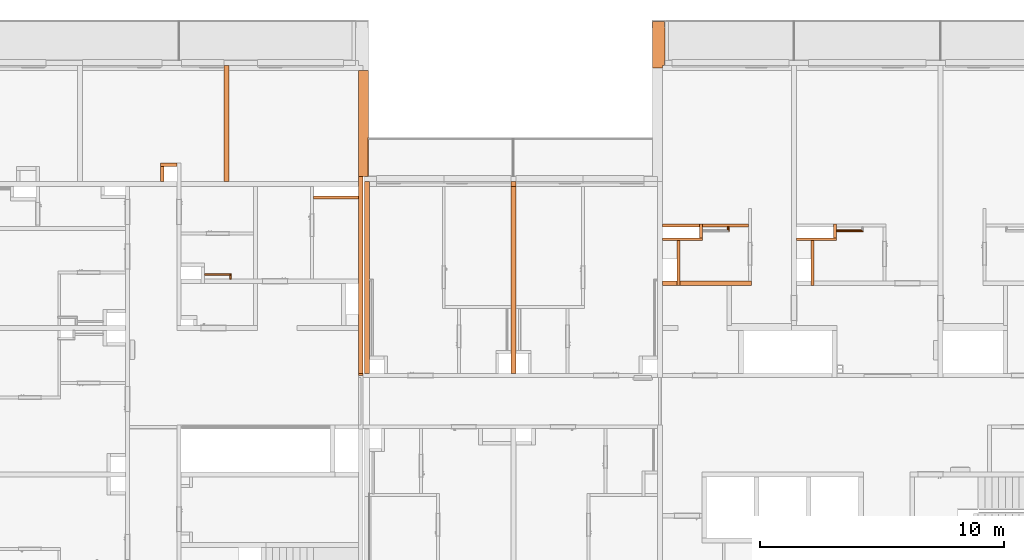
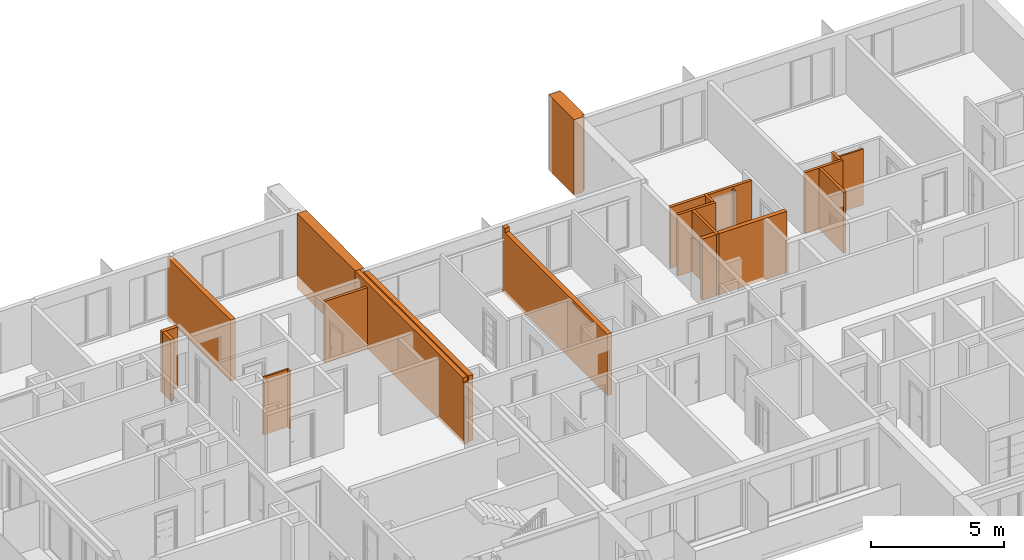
# One storey, part 62 of 67: 21 proxies, 1 opening.
"""IFC2X3 building model written with IfcOpenShell, lengths in millimetres."""

import ifcopenshell
import ifcopenshell.guid

model = None  # the IFC model being written
_history = None  # IfcOwnerHistory: only IFC2X3 demands one
_inside = {}  # id of a spatial element -> (the spatial element, [elements in it])
_under = {}  # id of a project, library or spatial element -> (it, [spatial elements below it])
_declared = {}  # id of a project -> (the project, [libraries it declares])
_typed = {}  # id of a type object -> (the type object, [elements of that type])
_made_of = {}  # id of a material, layer set ... -> (it, [elements and type objects made of it])


def new_model(schema):
    """Start an empty IFC model of exactly this schema.

    Asked for "IFC4X3", IfcOpenShell would pick the latest addendum, in which some entities
    have other attributes; the version numbers below select the first issue.
    IFC2X3 requires an IfcOwnerHistory on every rooted entity: one is made here for all.
    """
    global model, _history
    if schema == "IFC4X3":
        model = ifcopenshell.file(schema_version=(4, 3, 0, 0))
    else:
        model = ifcopenshell.file(schema=schema)
    _inside.clear()
    _under.clear()
    _declared.clear()
    _typed.clear()
    _made_of.clear()
    _history = None
    if model.schema == "IFC2X3":
        org = make("IfcOrganization", Name="unknown")
        user = make(
            "IfcPersonAndOrganization",
            ThePerson=make("IfcPerson", FamilyName="unknown"),
            TheOrganization=org,
        )
        app = make(
            "IfcApplication",
            ApplicationDeveloper=org,
            Version="unknown",
            ApplicationFullName="unknown",
            ApplicationIdentifier="unknown",
        )
        _history = make(
            "IfcOwnerHistory",
            OwningUser=user,
            OwningApplication=app,
            ChangeAction="ADDED",
            CreationDate=0,
        )
    return model


def make(cls, **values):
    """One entity of the class cls with the attributes given. An attribute that is None is left unset."""
    return model.create_entity(
        cls, **{name: value for name, value in values.items() if value is not None}
    )


def entity(cls, *values):
    """Any entity or typed value of the class cls, its attributes in the order of the schema. None: left unset."""
    e = model.create_entity(cls)
    for i, value in enumerate(values):
        if value is not None:
            e[i] = value
    return e


def rooted(cls, **values):
    """An entity with a GlobalId (a new one), such as an element, a storey or a relation."""
    return make(cls, GlobalId=ifcopenshell.guid.new(), OwnerHistory=_history, **values)


def si_unit(unit_type, name, prefix=None):
    """IfcSIUnit, for example si_unit("LENGTHUNIT", "METRE", prefix="MILLI")."""
    return make("IfcSIUnit", UnitType=unit_type, Prefix=prefix, Name=name)


def converted_unit(unit_type, name, factor, base, dimensions=None, offset=None):
    """IfcConversionBasedUnit, such as the inch: factor (a typed value) times the base unit."""
    return make(
        "IfcConversionBasedUnit"
        if offset is None
        else "IfcConversionBasedUnitWithOffset",
        ConversionOffset=offset,
        Dimensions=None
        if dimensions is None
        else entity("IfcDimensionalExponents", *dimensions),
        UnitType=unit_type,
        Name=name,
        ConversionFactor=make(
            "IfcMeasureWithUnit", ValueComponent=factor, UnitComponent=base
        ),
    )


def derived_unit(unit_type, elements):
    """IfcDerivedUnit: a product of units, each with its exponent."""
    return make(
        "IfcDerivedUnit",
        Elements=[
            make("IfcDerivedUnitElement", Unit=unit, Exponent=power)
            for unit, power in elements
        ],
        UnitType=unit_type,
    )


def money_unit(currency):
    """IfcMonetaryUnit."""
    return make("IfcMonetaryUnit", Currency=currency)


def assignment(units):
    """IfcUnitAssignment: the units of a project."""
    return None if units is None else make("IfcUnitAssignment", Units=units)


def point(xyz):
    """IfcCartesianPoint."""
    return None if xyz is None else make("IfcCartesianPoint", Coordinates=xyz)


def direction(xyz):
    """IfcDirection."""
    return None if xyz is None else make("IfcDirection", DirectionRatios=xyz)


def frame(location, z_axis=None, x_axis=None):
    """IfcAxis2Placement3D, a coordinate frame: its origin and axes. An axis left out is left unset."""
    return make(
        "IfcAxis2Placement3D",
        Location=point(location),
        Axis=direction(z_axis),
        RefDirection=direction(x_axis),
    )


def frame_2d(location, x_axis=None):
    """IfcAxis2Placement2D, a coordinate frame in the plane: its origin and x axis."""
    return make(
        "IfcAxis2Placement2D", Location=point(location), RefDirection=direction(x_axis)
    )


def origin_with_axes():
    """The frame at (0, 0, 0) with the z axis (0, 0, 1) and the x axis (1, 0, 0) written out."""
    return frame((0.0, 0.0, 0.0), z_axis=(0.0, 0.0, 1.0), x_axis=(1.0, 0.0, 0.0))


def origin_2d_with_axis():
    """The frame at (0, 0) in the plane with the x axis (1, 0) written out."""
    return frame_2d((0.0, 0.0), x_axis=(1.0, 0.0))


def place(relative_to, where):
    """IfcLocalPlacement: puts the frame where relative to a parent placement (None: the world)."""
    return make(
        "IfcLocalPlacement", PlacementRelTo=relative_to, RelativePlacement=where
    )


def context(
    kind, dimensions, precision=None, world=None, true_north=None, identifier=None
):
    """IfcGeometricRepresentationContext, for example the 3D "Model" context."""
    return make(
        "IfcGeometricRepresentationContext",
        ContextIdentifier=identifier,
        ContextType=kind,
        CoordinateSpaceDimension=dimensions,
        Precision=precision,
        WorldCoordinateSystem=world,
        TrueNorth=true_north,
    )


def subcontext(parent, identifier, kind, view, scale=None):
    """IfcGeometricRepresentationSubContext, for example "Body" below "Model"."""
    return make(
        "IfcGeometricRepresentationSubContext",
        ContextIdentifier=identifier,
        ContextType=kind,
        ParentContext=parent,
        TargetScale=scale,
        TargetView=view,
    )


def project(units=None, contexts=None):
    """IfcProject with its units and contexts."""
    return rooted(
        "IfcProject",
        Name="project",
        RepresentationContexts=contexts,
        UnitsInContext=assignment(units),
    )


def spatial(cls, under=None, at=None, **own):
    """A site, building, storey or space (cls), placed at a placement, below another one or the project."""
    s = rooted(cls, ObjectPlacement=at, **own)
    if under is not None:
        _under.setdefault(under.id(), (under, []))[1].append(s)
    return s


def profile(cls, at=None, kind="AREA", **sizes):
    """A parametric profile (cls). Its sizes go by their IFC names, for example OverallWidth=200.0."""
    return make(cls, ProfileType=kind, Position=at, **sizes)


def rectangle(**sizes):
    """IfcRectangleProfileDef."""
    return profile("IfcRectangleProfileDef", **sizes)


def extrude(swept, where, along, depth):
    """IfcExtrudedAreaSolid: the profile swept, set in the frame where, extruded along a direction by depth."""
    return make(
        "IfcExtrudedAreaSolid",
        SweptArea=swept,
        Position=where,
        ExtrudedDirection=direction(along),
        Depth=depth,
    )


def faces_of(points, faces, orient=None, outer=None):
    """IfcFace entities. A face is a list of loops; a loop is a list of indices into points, from 0.

    orient and outer hold one flag for each loop. By default every Orientation is true, the
    first loop of a face is its IfcFaceOuterBound and the others are IfcFaceBound.
    """
    made = []
    for i, loops in enumerate(faces):
        bounds = []
        for j, loop in enumerate(loops):
            is_outer = j == 0 if outer is None else outer[i][j]
            bounds.append(
                make(
                    "IfcFaceOuterBound" if is_outer else "IfcFaceBound",
                    Bound=make("IfcPolyLoop", Polygon=[points[k] for k in loop]),
                    Orientation=True if orient is None else orient[i][j],
                )
            )
        made.append(make("IfcFace", Bounds=bounds))
    return made


def faceted_brep(points, faces, orient=None, outer=None, voids=None):
    """IfcFacetedBrep: a solid bounded by flat faces; with voids (closed shells), ...WithVoids."""
    shared = [point(p) for p in points]
    hull = make("IfcClosedShell", CfsFaces=faces_of(shared, faces, orient, outer))
    if voids is None:
        return make("IfcFacetedBrep", Outer=hull)
    return make(
        "IfcFacetedBrepWithVoids",
        Outer=hull,
        Voids=[
            make(cls, CfsFaces=faces_of(shared, fs, o, b)) for cls, fs, o, b in voids
        ],
    )


def shape(context_of_items, identifier, shape_type, items):
    """IfcShapeRepresentation: the items that make up one representation, for example the "Body"."""
    return make(
        "IfcShapeRepresentation",
        ContextOfItems=context_of_items,
        RepresentationIdentifier=identifier,
        RepresentationType=shape_type,
        Items=items,
    )


def material(Name=None, Category=None):
    """IfcMaterial."""
    return make("IfcMaterial", Name=Name, Category=Category)


def material_list(materials):
    """IfcMaterialList."""
    return make("IfcMaterialList", Materials=materials)


def made_of(thing, what):
    """Note that an element or type object is made of a material, layer set ...; save() writes the relation."""
    if what is not None:
        _made_of.setdefault(what.id(), (what, []))[1].append(thing)
    return thing


def type_object(cls, material=None, **own):
    """A type object (cls), such as IfcWallType, which elements share."""
    return made_of(rooted(cls, **own), material)


def element(
    cls,
    number,
    at=None,
    inside=None,
    cuts=None,
    type_object=None,
    material=None,
    context=None,
    identifier="Body",
    shape_type=None,
    held_by="IfcProductDefinitionShape",
    body=None,
    shapes=None,
    **own,
):
    """One element of the class cls, such as IfcWall. Its Tag is "e" and its number.

    at: its placement. inside: the storey or other place that contains it. cuts: it is an
    opening in that element (IfcRelVoidsElement). A single representation is given by context,
    identifier, shape_type and body (its items); several are given by shapes. held_by: the class
    of the entity that holds the representations. save() writes the other relations.
    """
    e = rooted(cls, Tag="e%d" % number, ObjectPlacement=at, **own)
    if body is not None:
        shapes = [shape(context, identifier, shape_type, body)]
    if shapes is not None:
        e.Representation = make(held_by, Representations=shapes)
    if inside is not None:
        _inside.setdefault(inside.id(), (inside, []))[1].append(e)
    if cuts is not None:
        rooted(
            "IfcRelVoidsElement", RelatingBuildingElement=cuts, RelatedOpeningElement=e
        )
    if type_object is not None:
        _typed.setdefault(type_object.id(), (type_object, []))[1].append(e)
    return made_of(e, material)


def aggregate(whole, parts):
    """IfcRelAggregates: a whole, such as a stair, and the parts it consists of."""
    return rooted("IfcRelAggregates", RelatingObject=whole, RelatedObjects=parts)


def save(model, path):
    """Write the relations noted so far, then the file.

    IfcRelAggregates (storeys below a building ...), IfcRelContainedInSpatialStructure (elements
    in a storey), IfcRelDefinesByType, IfcRelAssociatesMaterial and IfcRelDeclares: one each for
    every whole, place, type object, material and project.
    """
    for whole, parts in _under.values():
        aggregate(whole, parts)
    for where, things in _inside.values():
        rooted(
            "IfcRelContainedInSpatialStructure",
            RelatedElements=things,
            RelatingStructure=where,
        )
    for kind, things in _typed.values():
        rooted("IfcRelDefinesByType", RelatedObjects=things, RelatingType=kind)
    for what, things in _made_of.values():
        rooted("IfcRelAssociatesMaterial", RelatedObjects=things, RelatingMaterial=what)
    for by, libraries in _declared.values():
        rooted("IfcRelDeclares", RelatingContext=by, RelatedDefinitions=libraries)
    model.write(path)


model = new_model("IFC2X3")

# Units and contexts
model_context = context("Model", 3, precision=0.01, world=origin_with_axes(), true_north=direction((0.34421633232, 0.938890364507)))
body_context = subcontext(model_context, "Body", "Model", "MODEL_VIEW")
ifc_project = project(units=[si_unit("LENGTHUNIT", "METRE", prefix="MILLI"), si_unit("AREAUNIT", "SQUARE_METRE"), si_unit("VOLUMEUNIT", "CUBIC_METRE"), converted_unit("PLANEANGLEUNIT", "DEGREE", entity("IfcPlaneAngleMeasure", 0.0174532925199), si_unit("PLANEANGLEUNIT", "RADIAN"), dimensions=[0, 0, 0, 0, 0, 0, 0]), si_unit("SOLIDANGLEUNIT", "STERADIAN"), money_unit("USD"), converted_unit("TIMEUNIT", "Year", entity("IfcTimeMeasure", 31556926.0), si_unit("TIMEUNIT", "SECOND"), dimensions=[0, 0, 1, 0, 0, 0, 0]), si_unit("MASSUNIT", "GRAM", prefix="KILO"), si_unit("THERMODYNAMICTEMPERATUREUNIT", "DEGREE_CELSIUS"), si_unit("LUMINOUSINTENSITYUNIT", "LUMEN"), si_unit("ENERGYUNIT", "JOULE", prefix="MEGA"), derived_unit("THERMALCONDUCTANCEUNIT", [(si_unit("POWERUNIT", "WATT"), 1), (si_unit("LENGTHUNIT", "METRE"), -1), (si_unit("THERMODYNAMICTEMPERATUREUNIT", "KELVIN"), -1)]), derived_unit("SPECIFICHEATCAPACITYUNIT", [(si_unit("ENERGYUNIT", "JOULE"), 1), (si_unit("MASSUNIT", "GRAM", prefix="KILO"), -1), (si_unit("THERMODYNAMICTEMPERATUREUNIT", "KELVIN"), -1)]), derived_unit("MASSDENSITYUNIT", [(si_unit("MASSUNIT", "GRAM", prefix="KILO"), 1), (si_unit("VOLUMEUNIT", "CUBIC_METRE"), -1)])], contexts=[model_context])

# Site, building, storey
site_placement = place(None, origin_with_axes())
site = spatial("IfcSite", under=ifc_project, at=site_placement, Name="USTRONIE MORSKIE", CompositionType="ELEMENT")
building_placement = place(site_placement, origin_with_axes())
building = spatial("IfcBuilding", under=site, at=building_placement, Name="Budynek", CompositionType="ELEMENT")
storey_placement = place(building_placement, frame((0.0, 0.0, 4000.0), z_axis=(0.0, 0.0, 1.0), x_axis=(1.0, 0.0, 0.0)))
storey = spatial("IfcBuildingStorey", under=building, at=storey_placement, Name="PIĘTRO 1", CompositionType="ELEMENT", Elevation=4000.0)

# Proxies
ifc_material_1 = material(Name="Bloczki silikatowe")
building_element_proxy_type_1 = type_object("IfcBuildingElementProxyType", Name="Bloczki silikatowe 120", PredefinedType="NOTDEFINED")
proxy_1_placement = place(storey_placement, frame((380997.920919, 743001.199021, -160.0), z_axis=(0.0, 0.0, 1.0), x_axis=(0.0, -1.0, 0.0)))
element("IfcBuildingElementProxy", 1, at=proxy_1_placement, inside=storey, type_object=building_element_proxy_type_1, material=ifc_material_1, Name="SW-04", context=body_context, shape_type="Brep", body=[
    faceted_brep([(509.999084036, 60.0, 0.0), (509.999084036, -60.0, 0.0), (-59.9999999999, -60.0, 0.0), (-59.9999999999, 60.0, 0.0), (509.999084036, 60.0, 2800.0), (509.999084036, -60.0, 2800.0), (-59.9999999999, -60.0, 2800.0), (-59.9999999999, 60.0, 2800.0)], [[[0, 1, 2, 3]], [[1, 0, 4, 5]], [[1, 5, 6, 2]], [[7, 3, 2, 6]], [[4, 0, 3, 7]], [[5, 4, 7, 6]]]),
])
proxy_2_placement = place(storey_placement, frame((380077.924326, 742431.199937, -160.0), z_axis=(0.0, 0.0, 1.0), x_axis=(0.0, -1.0, 0.0)))
element("IfcBuildingElementProxy", 2, at=proxy_2_placement, inside=storey, type_object=building_element_proxy_type_1, material=ifc_material_1, Name="SW-04", context=body_context, shape_type="Brep", body=[
    faceted_brep([(1890.00090117, 60.0, 0.0), (1890.00090117, -60.0, 0.0), (59.9999999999, -60.0, 0.0), (59.9999999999, 60.0, 0.0), (1890.00090117, 60.0, 2800.0), (1890.00090117, -60.0, 2800.0), (59.9999999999, -60.0, 2800.0), (59.9999999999, 60.0, 2800.0)], [[[0, 1, 2, 3]], [[1, 0, 4, 5]], [[1, 5, 6, 2]], [[7, 3, 2, 6]], [[4, 0, 3, 7]], [[5, 4, 7, 6]]]),
])
proxy_3_placement = place(storey_placement, frame((379317.920919, 742431.199937, -160.0), z_axis=(0.0, 0.0, 1.0), x_axis=(1.0, 0.0, 0.0)))
element("IfcBuildingElementProxy", 3, at=proxy_3_placement, inside=storey, type_object=building_element_proxy_type_1, material=ifc_material_1, Name="SW-04", context=body_context, shape_type="Brep", body=[
    faceted_brep([(1740.0, 59.9999999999, 0.0), (1740.0, -59.9999999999, 0.0), (100.0, -59.9999999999, 0.0), (100.0, 59.9999999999, 0.0), (1740.0, 59.9999999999, 2800.0), (1740.0, -59.9999999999, 2800.0), (100.0, -59.9999999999, 2800.0), (100.0, 59.9999999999, 2800.0)], [[[0, 1, 2, 3]], [[1, 0, 4, 5]], [[1, 5, 6, 2]], [[7, 3, 2, 6]], [[4, 0, 3, 7]], [[5, 4, 7, 6]]]),
])
proxy_4_placement = place(storey_placement, frame((383017.920919, 743001.199021, -160.0), z_axis=(0.0, 0.0, 1.0), x_axis=(-1.0, 0.0, 0.0)))
element("IfcBuildingElementProxy", 4, at=proxy_4_placement, inside=storey, type_object=building_element_proxy_type_1, material=ifc_material_1, Name="SW-04", context=body_context, shape_type="Brep", body=[
    faceted_brep([(3600.0, -59.9999999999, 2800.0), (2080.0, -59.9999999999, 2800.0), (2080.0, -59.9999999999, 0.0), (3600.0, -59.9999999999, 0.0), (3600.0, 59.9999999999, 2800.0), (2080.0, 59.9999999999, 2800.0), (2080.0, 59.9999999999, 0.0), (3600.0, 59.9999999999, 0.0)], [[[0, 1, 2, 3]], [[4, 5, 1, 0]], [[2, 1, 5, 6]], [[7, 3, 2, 6]], [[7, 4, 0, 3]], [[6, 5, 4, 7]]]),
    faceted_brep([(1960.0, -59.9999999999, 0.0), (1960.0, -59.9999999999, 2800.0), (60.0, -59.9999999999, 2800.0), (60.0, -59.9999999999, 0.0), (1960.0, 59.9999999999, 0.0), (1960.0, 59.9999999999, 2800.0), (60.0, 59.9999999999, 2800.0), (60.0, 59.9999999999, 0.0)], [[[0, 1, 2, 3]], [[4, 5, 1, 0]], [[5, 6, 2, 1]], [[3, 2, 6, 7]], [[3, 7, 4, 0]], [[7, 6, 5, 4]]]),
])
proxy_5_placement = place(storey_placement, frame((386497.920919, 743001.199021, -160.0), z_axis=(0.0, 0.0, 1.0), x_axis=(0.0, -1.0, 0.0)))
element("IfcBuildingElementProxy", 5, at=proxy_5_placement, inside=storey, type_object=building_element_proxy_type_1, material=ifc_material_1, Name="SW-04", context=body_context, shape_type="Brep", body=[
    faceted_brep([(509.999084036, 60.0, 0.0), (509.999084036, -60.0, 0.0), (-59.9999999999, -60.0, 0.0), (-59.9999999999, 60.0, 0.0), (509.999084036, 60.0, 2800.0), (509.999084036, -60.0, 2800.0), (-59.9999999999, -60.0, 2800.0), (-59.9999999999, 60.0, 2800.0)], [[[0, 1, 2, 3]], [[1, 0, 4, 5]], [[1, 5, 6, 2]], [[7, 3, 2, 6]], [[4, 0, 3, 7]], [[5, 4, 7, 6]]]),
])
proxy_6_placement = place(storey_placement, frame((367067.920919, 744201.199036, -180.0), z_axis=(0.0, 0.0, 1.0), x_axis=(-1.0, 0.0, 0.0)))
element("IfcBuildingElementProxy", 6, at=proxy_6_placement, inside=storey, type_object=building_element_proxy_type_1, material=ifc_material_1, Name="SW-04", context=body_context, shape_type="Brep", body=[
    faceted_brep([(100.704002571, 0.0, 0.0), (100.704002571, 0.0, 20.0), (1940.01916964, 0.0, 20.0), (1940.01916964, 0.0, 2820.0), (100.0, 0.0, 2820.0), (100.0, 0.0, 0.0), (100.720094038, 120.0, 20.0), (100.720094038, 120.0, 0.0), (1940.01916964, 120.0, 20.0), (1940.01916964, 120.0, 2820.0), (100.0, 120.0, 2820.0), (100.0, 120.0, 0.0)], [[[0, 1, 2, 3, 4, 5]], [[6, 1, 0, 7]], [[2, 1, 6, 8]], [[3, 2, 8, 9]], [[10, 4, 3, 9]], [[4, 10, 11, 5]], [[11, 7, 0, 5]], [[8, 6, 7, 11, 10, 9]]]),
])
proxy_7_placement = place(storey_placement, frame((385577.924326, 742431.199937, -160.0), z_axis=(0.0, 0.0, 1.0), x_axis=(0.0, -1.0, 0.0)))
element("IfcBuildingElementProxy", 7, at=proxy_7_placement, inside=storey, type_object=building_element_proxy_type_1, material=ifc_material_1, Name="SW-04", context=body_context, shape_type="Brep", body=[
    faceted_brep([(1890.00090117, 60.0, 0.0), (1890.00090117, -60.0, 0.0), (59.9999999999, -60.0, 0.0), (59.9999999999, 60.0, 0.0), (1890.00090117, 60.0, 2800.0), (1890.00090117, -60.0, 2800.0), (59.9999999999, -60.0, 2800.0), (59.9999999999, 60.0, 2800.0)], [[[0, 1, 2, 3]], [[1, 0, 4, 5]], [[1, 5, 6, 2]], [[7, 3, 2, 6]], [[4, 0, 3, 7]], [[5, 4, 7, 6]]]),
])
proxy_8_placement = place(storey_placement, frame((384817.920919, 742431.199937, -160.0), z_axis=(0.0, 0.0, 1.0), x_axis=(1.0, 0.0, 0.0)))
element("IfcBuildingElementProxy", 8, at=proxy_8_placement, inside=storey, type_object=building_element_proxy_type_1, material=ifc_material_1, Name="SW-04", context=body_context, shape_type="Brep", body=[
    faceted_brep([(1740.0, 59.9999999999, 0.0), (1740.0, -59.9999999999, 0.0), (100.0, -59.9999999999, 0.0), (100.0, 59.9999999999, 0.0), (1740.0, 59.9999999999, 2800.0), (1740.0, -59.9999999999, 2800.0), (100.0, -59.9999999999, 2800.0), (100.0, 59.9999999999, 2800.0)], [[[0, 1, 2, 3]], [[1, 0, 4, 5]], [[1, 5, 6, 2]], [[7, 3, 2, 6]], [[4, 0, 3, 7]], [[5, 4, 7, 6]]]),
])
ifc_material_2 = material(Name="Beton konstrukcyjny B25")
ifc_material_3 = material(Name="Wełna ELEW")
ifc_material_4 = material(Name="Tynk zewnętrzny")
ifc_material_list_1 = material_list([ifc_material_2, ifc_material_3, ifc_material_4])
building_element_proxy_type_2 = type_object("IfcBuildingElementProxyType", Name="20+20 410", PredefinedType="NOTDEFINED")
proxy_9_placement = place(storey_placement, frame((367067.920919, 745001.199036, -600.0), z_axis=(0.0, 0.0, 1.0), x_axis=(0.0, 1.0, 0.0)))
element("IfcBuildingElementProxy", 9, at=proxy_9_placement, inside=storey, type_object=building_element_proxy_type_2, material=ifc_material_list_1, Name="SZ-01", context=body_context, shape_type="Brep", body=[
    faceted_brep([(4350.0, -100.0, 0.0), (4350.0, -100.0, 3440.0), (0.0, -100.0, 3440.0), (0.0, -100.0, 0.0), (4350.0, 100.0, 3440.0), (4350.0, 100.0, 0.0), (0.0, 100.0, 3440.0), (0.0, 100.0, 0.0)], [[[0, 1, 2, 3]], [[4, 1, 0, 5]], [[1, 4, 6, 2]], [[2, 6, 7, 3]], [[5, 0, 3, 7]], [[4, 5, 7, 6]]]),
    faceted_brep([(0.0, -300.0, 0.0), (4350.0, -300.0, -1.039014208e-06), (4350.0, -300.0, 3440.0), (0.0, -300.0, 3440.0), (0.0, -100.0, 0.0), (4350.0, -100.0, -1.039014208e-06), (4350.0, -100.0, 3440.0), (0.0, -100.0, 3440.0)], [[[0, 1, 2, 3]], [[4, 5, 1, 0]], [[5, 6, 2, 1]], [[3, 2, 6, 7]], [[0, 3, 7, 4]], [[7, 6, 5, 4]]]),
    faceted_brep([(1599.99509907, -300.0, 3440.0), (1599.99509907, -310.0, 3440.0), (4350.0, -310.0, 3440.0), (4350.0, -300.0, 3440.0), (1599.99509907, -310.0, 3240.0), (1599.99509907, -300.0, 3240.0), (0.000383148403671, -310.0, 3240.0), (0.000384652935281, -310.0, 570.0), (1599.99509907, -310.0, 570.0), (1599.99509907, -310.0, 130.0), (0.000384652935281, -310.0, 130.0), (0.0, -310.0, 0.0), (4350.0, -310.0, -1.039014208e-06), (4350.0, -300.0, -1.039014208e-06), (0.0, -300.0, 0.0), (0.000373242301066, -300.0, 130.0), (1599.99509907, -300.0, 130.0), (1599.99509907, -300.0, 570.0), (0.000373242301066, -300.0, 570.0), (0.000371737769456, -300.0, 3240.0)], [[[0, 1, 2, 3]], [[4, 1, 0, 5]], [[4, 6, 7, 8, 9, 10, 11, 12, 2, 1]], [[13, 3, 2, 12]], [[5, 0, 3, 13, 14, 15, 16, 17, 18, 19]], [[6, 4, 5, 19]], [[6, 19, 18, 7]], [[8, 7, 18, 17]], [[8, 17, 16, 9]], [[10, 9, 16, 15]], [[10, 15, 14, 11]], [[14, 13, 12, 11]]]),
])
building_element_proxy_type_3 = type_object("IfcBuildingElementProxyType", Name="Bloczki silikatowe 180", PredefinedType="NOTDEFINED")
proxy_10_placement = place(storey_placement, frame((379317.92443, 740631.199036, -160.0), z_axis=(0.0, 0.0, 1.0), x_axis=(1.0, 0.0, 0.0)))
element("IfcBuildingElementProxy", 10, at=proxy_10_placement, inside=storey, type_object=building_element_proxy_type_3, material=ifc_material_1, Name="SW-02", context=body_context, shape_type="Brep", body=[
    faceted_brep([(819.9998961, 90.0, 0.0), (819.9998961, 90.0, 2800.0), (3759.9964887, 90.0, 2800.0), (3759.9964887, 90.0, 0.0), (819.9998961, -90.0, 0.0), (819.9998961, -90.0, 2800.0), (3759.9964887, -90.0, 2800.0), (3759.9964887, -90.0, 0.0)], [[[0, 1, 2, 3]], [[4, 5, 1, 0]], [[5, 6, 2, 1]], [[3, 2, 6, 7]], [[3, 7, 4, 0]], [[7, 6, 5, 4]]]),
    faceted_brep([(99.9964886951, 90.0, 0.0), (99.9964886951, 90.0, 2800.0), (699.997987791, 90.0, 2800.0), (699.9998961, 90.0, 0.0), (99.9964886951, -90.0, 0.0), (99.9964886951, -90.0, 2800.0), (699.997987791, -90.0, 2800.0), (699.9998961, -90.0, 0.0)], [[[0, 1, 2, 3]], [[4, 5, 1, 0]], [[6, 2, 1, 5]], [[6, 7, 3, 2]], [[4, 0, 3, 7]], [[7, 6, 5, 4]]]),
])
ifc_material_5 = material(Name="Płyta GK")
ifc_material_6 = material(Name="-Pustka powietrzna")
ifc_material_list_2 = material_list([ifc_material_5, ifc_material_5, ifc_material_6])
building_element_proxy_type_4 = type_object("IfcBuildingElementProxyType", Name="330-SD GK 2-warstwy 75", PredefinedType="NOTDEFINED")
proxy_11_placement = place(storey_placement, frame((361742.922714, 741001.179476, -180.0), z_axis=(0.0, 0.0, 1.0), x_axis=(0.0, -1.0, 0.0)))
element("IfcBuildingElementProxy", 11, at=proxy_11_placement, inside=storey, type_object=building_element_proxy_type_4, material=ifc_material_list_2, Name="Ściana-009", context=body_context, shape_type="Brep", body=[
    faceted_brep([(200.0, 25.0, 165.0), (-12.5, 25.0, 165.0), (-12.5, 25.0, 2820.0), (200.0, 25.0, 2820.0), (-12.5, 12.5, 165.0), (200.0, 12.5, 165.0), (-12.5, 12.5, 2820.0), (200.0, 12.5, 2820.0)], [[[0, 1, 2, 3]], [[4, 1, 0, 5]], [[1, 4, 6, 2]], [[6, 7, 3, 2]], [[5, 0, 3, 7]], [[4, 5, 7, 6]]]),
    faceted_brep([(200.0, 12.5, 165.0), (0.0, 12.5, 165.0), (0.0, 12.5, 2820.0), (200.0, 12.5, 2820.0), (0.0, 0.0, 165.0), (200.0, 0.0, 165.0), (0.0, 0.0, 2820.0), (200.0, 0.0, 2820.0)], [[[0, 1, 2, 3]], [[4, 1, 0, 5]], [[1, 4, 6, 2]], [[6, 7, 3, 2]], [[5, 0, 3, 7]], [[4, 5, 7, 6]]]),
    faceted_brep([(200.0, 0.0, 180.0), (50.0, 0.0, 180.0), (50.0, 0.0, 2820.0), (200.0, 0.0, 2820.0), (50.0, -50.0, 180.0), (200.0, -50.0, 180.0), (50.0, -50.0, 2820.0), (200.0, -50.0, 2820.0)], [[[0, 1, 2, 3]], [[4, 1, 0, 5]], [[1, 4, 6, 2]], [[6, 7, 3, 2]], [[5, 0, 3, 7]], [[4, 5, 7, 6]]]),
])
proxy_12_placement = place(storey_placement, frame((387632.920919, 742771.199021, -160.0), z_axis=(0.0, 0.0, 1.0), x_axis=(-1.0, 0.0, 0.0)))
element("IfcBuildingElementProxy", 12, at=proxy_12_placement, inside=storey, type_object=building_element_proxy_type_4, material=ifc_material_list_2, Name="Ściana-009", context=body_context, shape_type="Brep", body=[
    faceted_brep([(-25.0, 25.0, 145.0), (-25.0, 12.5, 145.0), (-25.0, 12.5, 2710.0), (-25.0, 25.0, 2710.0), (1075.0, 12.5, 145.0), (1075.0, 25.0, 145.0), (1075.0, 12.5, 2710.0), (1075.0, 25.0, 2710.0)], [[[0, 1, 2, 3]], [[4, 1, 0, 5]], [[1, 4, 6, 2]], [[6, 7, 3, 2]], [[5, 0, 3, 7]], [[4, 5, 7, 6]]]),
    faceted_brep([(-12.5, 12.5, 145.0), (-12.5, 0.0, 145.0), (-12.5, 0.0, 2710.0), (-12.5, 12.5, 2710.0), (1075.0, 0.0, 145.0), (1075.0, 12.5, 145.0), (1075.0, 0.0, 2710.0), (1075.0, 12.5, 2710.0)], [[[0, 1, 2, 3]], [[4, 1, 0, 5]], [[1, 4, 6, 2]], [[6, 7, 3, 2]], [[5, 0, 3, 7]], [[4, 5, 7, 6]]]),
    faceted_brep([(0.0, 0.0, 160.0), (0.0, -50.0, 160.0), (0.0, -50.0, 2710.0), (0.0, 0.0, 2710.0), (1075.0, -50.0, 160.0), (1075.0, 0.0, 160.0), (1075.0, -50.0, 2710.0), (1075.0, 0.0, 2710.0)], [[[0, 1, 2, 3]], [[4, 1, 0, 5]], [[1, 4, 6, 2]], [[6, 7, 3, 2]], [[5, 0, 3, 7]], [[4, 5, 7, 6]]]),
])
proxy_13_placement = place(storey_placement, frame((360517.922714, 741001.179476, -180.0), z_axis=(0.0, 0.0, 1.0), x_axis=(1.0, 0.0, 0.0)))
element("IfcBuildingElementProxy", 13, at=proxy_13_placement, inside=storey, type_object=building_element_proxy_type_4, material=ifc_material_list_2, Name="Ściana-009", context=body_context, shape_type="Brep", body=[
    faceted_brep([(1250.0, 12.5, 165.0), (1250.0, 25.0, 165.0), (1250.0, 25.0, 2820.0), (1250.0, 12.5, 2820.0), (150.0, 25.0, 165.0), (150.0, 12.5, 165.0), (150.0, 25.0, 2820.0), (150.0, 12.5, 2820.0)], [[[0, 1, 2, 3]], [[4, 1, 0, 5]], [[1, 4, 6, 2]], [[2, 6, 7, 3]], [[5, 0, 3, 7]], [[4, 5, 7, 6]]]),
    faceted_brep([(1237.5, 0.0, 165.0), (1237.5, 12.5, 165.0), (1237.5, 12.5, 2820.0), (1237.5, 0.0, 2820.0), (150.0, 12.5, 165.0), (150.0, 0.0, 165.0), (150.0, 12.5, 2820.0), (150.0, 0.0, 2820.0)], [[[0, 1, 2, 3]], [[4, 1, 0, 5]], [[1, 4, 6, 2]], [[2, 6, 7, 3]], [[5, 0, 3, 7]], [[4, 5, 7, 6]]]),
    faceted_brep([(1225.0, -50.0, 180.0), (1225.0, 0.0, 180.0), (1225.0, 0.0, 2820.0), (1225.0, -50.0, 2820.0), (150.0, 0.0, 180.0), (150.0, -50.0, 180.0), (150.0, 0.0, 2820.0), (150.0, -50.0, 2820.0)], [[[0, 1, 2, 3]], [[4, 1, 0, 5]], [[1, 4, 6, 2]], [[2, 6, 7, 3]], [[5, 0, 3, 7]], [[4, 5, 7, 6]]]),
])
ifc_material_list_3 = material_list([ifc_material_6, ifc_material_5, ifc_material_5])
proxy_14_placement = place(storey_placement, frame((382132.920919, 742771.199021, -160.0), z_axis=(0.0, 0.0, 1.0), x_axis=(0.0, 1.0, 0.0)))
element("IfcBuildingElementProxy", 14, at=proxy_14_placement, inside=storey, type_object=building_element_proxy_type_4, material=ifc_material_list_3, Name="Ściana-009", context=body_context, shape_type="Brep", body=[
    faceted_brep([(50.0, 0.0, 160.0), (170.0, 0.0, 160.0), (170.0, 0.0, 2710.0), (50.0, 0.0, 2710.0), (170.0, 50.0, 160.0), (50.0, 50.0, 160.0), (170.0, 50.0, 2710.0), (50.0, 50.0, 2710.0)], [[[0, 1, 2, 3]], [[4, 1, 0, 5]], [[1, 4, 6, 2]], [[2, 6, 7, 3]], [[5, 0, 3, 7]], [[4, 5, 7, 6]]]),
    faceted_brep([(0.0, -12.5, 145.0), (170.0, -12.5, 145.0), (170.0, -12.5, 2710.0), (0.0, -12.5, 2710.0), (170.0, 0.0, 145.0), (0.0, 0.0, 145.0), (170.0, 0.0, 2710.0), (0.0, 0.0, 2710.0)], [[[0, 1, 2, 3]], [[4, 1, 0, 5]], [[1, 4, 6, 2]], [[2, 6, 7, 3]], [[5, 0, 3, 7]], [[4, 5, 7, 6]]]),
    faceted_brep([(-12.5, -25.0, 145.0), (170.0, -25.0, 145.0), (170.0, -25.0, 2710.0), (-12.5, -25.0, 2710.0), (170.0, -12.5, 145.0), (-12.5, -12.5, 145.0), (170.0, -12.5, 2710.0), (-12.5, -12.5, 2710.0)], [[[0, 1, 2, 3]], [[4, 1, 0, 5]], [[1, 4, 6, 2]], [[2, 6, 7, 3]], [[5, 0, 3, 7]], [[4, 5, 7, 6]]]),
])
building_element_proxy_type_5 = type_object("IfcBuildingElementProxyType", Name="Bloczki silikatowe 150", PredefinedType="NOTDEFINED")
proxy_15_placement = place(storey_placement, frame((358927.921749, 744701.199036, -160.0), z_axis=(0.0, 0.0, 1.0), x_axis=(0.0, 1.0, 0.0)))
element("IfcBuildingElementProxy", 15, at=proxy_15_placement, inside=storey, type_object=building_element_proxy_type_5, material=ifc_material_1, Name="SW-03", context=body_context, shape_type="Brep", body=[
    faceted_brep([(700.00090117, -90.0, 2800.0), (700.00090117, 60.0, 2800.0), (100.0, 60.0, 2800.0), (100.0, -90.0, 2800.0), (700.00090117, -90.0, 0.0), (700.00090117, 60.0, 0.0), (100.0, 60.0, 0.0), (100.0, -90.0, 0.0)], [[[0, 1, 2, 3]], [[1, 0, 4, 5]], [[1, 5, 6, 2]], [[7, 3, 2, 6]], [[4, 0, 3, 7]], [[5, 4, 7, 6]]]),
])
proxy_16_placement = place(storey_placement, frame((359617.920919, 745461.199937, -160.0), z_axis=(0.0, 0.0, 1.0), x_axis=(-1.0, 0.0, 0.0)))
element("IfcBuildingElementProxy", 16, at=proxy_16_placement, inside=storey, type_object=building_element_proxy_type_5, material=ifc_material_1, Name="SW-03", context=body_context, shape_type="Brep", body=[
    faceted_brep([(749.999170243, -90.0, 2800.0), (749.999170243, 59.9999999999, 2800.0), (80.0, 59.9999999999, 2800.0), (80.0, -90.0, 2800.0), (749.999170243, -90.0, 0.0), (749.999170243, 59.9999999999, 0.0), (80.0, 59.9999999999, 0.0), (80.0, -90.0, 0.0)], [[[0, 1, 2, 3]], [[1, 0, 4, 5]], [[1, 5, 6, 2]], [[7, 3, 2, 6]], [[4, 0, 3, 7]], [[5, 4, 7, 6]]]),
])
building_element_proxy_type_6 = type_object("IfcBuildingElementProxyType", Name="Beton konstrukcyjny B25 200", PredefinedType="NOTDEFINED")
proxy_17_placement = place(storey_placement, frame((373317.920919, 736851.199036, -160.0), z_axis=(0.0, 0.0, 1.0), x_axis=(0.0, 1.0, 0.0)))
element("IfcBuildingElementProxy", 17, at=proxy_17_placement, inside=storey, type_object=building_element_proxy_type_6, material=ifc_material_2, Name="SW-01", context=body_context, shape_type="Brep", body=[
    faceted_brep([(7950.00703345, 100.0, 3000.0), (7750.00703345, 100.0, 3000.0), (7750.00726218, -100.0, 3000.0), (7950.00726218, -100.0, 3000.0), (80.0, 100.0, 2800.0), (7750.00703345, 100.0, 2800.0), (7950.00703345, 100.0, 0.0), (80.0, 100.0, 0.0), (7750.00726218, -100.0, 2800.0), (80.0, -100.0, 2800.0), (80.0, -100.0, 0.0), (7950.00726218, -100.0, 0.0)], [[[0, 1, 2, 3]], [[4, 5, 1, 0, 6, 7]], [[5, 8, 2, 1]], [[2, 8, 9, 10, 11, 3]], [[6, 0, 3, 11]], [[4, 9, 8, 5]], [[6, 11, 10, 7]], [[10, 9, 4, 7]]]),
])
proxy_18_placement = place(storey_placement, frame((361567.920919, 744701.199036, -230.0), z_axis=(0.0, 0.0, 1.0), x_axis=(0.0, 1.0, 0.0)))
element("IfcBuildingElementProxy", 18, at=proxy_18_placement, inside=storey, type_object=building_element_proxy_type_6, material=ifc_material_2, Name="SW-01", context=body_context, shape_type="Brep", body=[
    faceted_brep([(100.0, -100.0, 70.0), (4650.0, -100.0, 70.0), (4650.0, -100.0, 0.0), (4850.0, -100.0, 0.0), (4850.0, -100.0, 2870.0), (100.0, -100.0, 2870.0), (4650.0, 100.0, 70.0), (100.0, 100.0, 70.0), (4650.0, 100.0, 0.0), (4850.0, 100.0, 0.0), (4850.0, 100.0, 2870.0), (100.0, 100.0, 2870.0)], [[[0, 1, 2, 3, 4, 5]], [[6, 1, 0, 7]], [[8, 2, 1, 6]], [[3, 2, 8, 9]], [[3, 9, 10, 4]], [[4, 10, 11, 5]], [[11, 7, 0, 5]], [[8, 6, 7, 11, 10, 9]]]),
])
proxy_19_placement = place(storey_placement, frame((367317.920919, 744701.199036, -160.0), z_axis=(0.0, 0.0, 1.0), x_axis=(0.0, -1.0, 0.0)))
element("IfcBuildingElementProxy", 19, at=proxy_19_placement, inside=storey, type_object=building_element_proxy_type_6, material=ifc_material_2, Name="SW-01", context=body_context, shape_type="Brep", body=[
    faceted_brep([(-100.000171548, -100.0, 3000.0), (7770.0, -100.0, 3000.0), (7770.0, 100.006734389, 3000.0), (-100.000400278, 100.0, 3000.0), (7770.0, -100.0, 0.0), (-100.000171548, -100.0, 0.0), (7770.0, 100.0, 0.0), (7770.0, 100.006734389, 2800.0), (-100.000400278, 100.0, 0.0)], [[[0, 1, 2, 3]], [[4, 1, 0, 5]], [[6, 7, 2, 1, 4]], [[3, 2, 7, 6, 8]], [[8, 5, 0, 3]], [[5, 8, 6, 4]]]),
])
proxy_20_placement = place(storey_placement, frame((367067.920919, 745001.199036, -160.0), z_axis=(0.0, 0.0, 1.0), x_axis=(0.0, -1.0, 0.0)))
element("IfcBuildingElementProxy", 20, at=proxy_20_placement, inside=storey, type_object=building_element_proxy_type_6, material=ifc_material_2, Name="SW-01", context=body_context, shape_type="Brep", body=[
    faceted_brep([(0.0, -100.0, 3000.0), (8070.0, -100.0, 3000.0), (8070.0, 100.0, 3000.0), (0.0, 100.0, 3000.0), (8150.0, -100.0, 2800.0), (8070.0, -100.0, 2800.0), (0.0, -100.0, 0.0), (8150.0, -100.0, 0.0), (8070.0, 100.0, 2800.0), (8150.0, 100.0, 2800.0), (8150.0, 100.0, 0.0), (0.0, 100.0, 0.0)], [[[0, 1, 2, 3]], [[4, 5, 1, 0, 6, 7]], [[5, 8, 2, 1]], [[2, 8, 9, 10, 11, 3]], [[0, 3, 11, 6]], [[4, 9, 8, 5]], [[10, 7, 6, 11]], [[10, 9, 4, 7]]]),
])

# Proxy, opening
ifc_material_list_4 = material_list([ifc_material_4, ifc_material_3, ifc_material_2, ifc_material_3, ifc_material_4])
building_element_proxy_type_7 = type_object("IfcBuildingElementProxyType", Name="BALKON bok 01 520", PredefinedType="NOTDEFINED")
proxy_21_placement = place(storey_placement, frame((379317.920919, 749451.199036, -600.000001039), z_axis=(0.0, 0.0, 1.0), x_axis=(0.0, 1.0, 0.0)))
proxy_21 = element("IfcBuildingElementProxy", 21, at=proxy_21_placement, inside=storey, type_object=building_element_proxy_type_7, material=ifc_material_list_4, Name="Œciana-006", context=body_context, shape_type="Brep", body=[
    faceted_brep([(0.0, 300.0, 3440.00000104), (1949.99981809, 300.0, 3440.00000104), (1949.99981809, 310.0, 3440.00000104), (0.0, 310.0, 3440.00000104), (0.0, 300.0, 0.0), (1949.99981809, 300.0, 0.0), (1949.99981809, 310.0, 0.0), (0.0, 310.0, 0.0)], [[[0, 1, 2, 3]], [[4, 5, 1, 0]], [[2, 1, 5, 6]], [[3, 2, 6, 7]], [[4, 0, 3, 7]], [[7, 6, 5, 4]]]),
    faceted_brep([(0.0, 100.0, 3440.00000104), (1949.99981809, 100.0, 3440.00000104), (1949.99981809, 300.0, 3440.00000104), (0.0, 300.0, 3440.00000104), (0.0, 100.0, 0.0), (1949.99981809, 100.0, 0.0), (1949.99981809, 300.0, 0.0), (0.0, 300.0, 0.0)], [[[0, 1, 2, 3]], [[4, 5, 1, 0]], [[2, 1, 5, 6]], [[3, 2, 6, 7]], [[4, 0, 3, 7]], [[7, 6, 5, 4]]]),
    faceted_brep([(0.0, 100.0, 3440.00000104), (0.0, -100.0, 3440.00000104), (1949.99981809, -100.0, 3440.00000104), (1949.99981809, 100.0, 3440.00000104), (0.0, 100.0, 0.0), (0.0, -100.0, 0.0), (1949.99981809, -100.0, 0.0), (1949.99981809, 100.0, 0.0)], [[[0, 1, 2, 3]], [[4, 5, 1, 0]], [[1, 5, 6, 2]], [[7, 3, 2, 6]], [[4, 0, 3, 7]], [[5, 4, 7, 6]]]),
    faceted_brep([(100.0, -100.0, 3440.00000104), (100.0, -200.0, 3440.00000104), (1949.99981809, -200.0, 3440.00000104), (1949.99981809, -100.0, 3440.00000104), (100.0, -200.0, 6.00319793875e-09), (100.0, -100.0, 0.0), (1949.99981809, -200.0, 0.0), (1949.99981809, -100.0, 0.0)], [[[0, 1, 2, 3]], [[4, 1, 0, 5]], [[1, 4, 6, 2]], [[7, 3, 2, 6]], [[5, 0, 3, 7]], [[4, 5, 7, 6]]]),
    faceted_brep([(1899.84617112, -209.852530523, 3440.00002375), (1909.87684774, -209.852438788, 3440.00000104), (1909.87684909, -210.0, 3440.00001921), (1949.99981809, -210.0, 3440.00000104), (1949.99981809, -200.0, 3440.00000104), (300.0, -200.0, 3440.00000104), (300.0, -209.867161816, 3440.00002375), (300.0, -209.867161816, 3240.00001392), (309.846250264, -209.867071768, 3240.00001529), (309.845766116, -209.867071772, 3229.99999287), (1909.87684774, -209.852438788, 3229.99999287), (1909.87684909, -210.0, 3229.99999287), (309.845767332, -210.0, 3229.99999287), (309.84625148, -210.0, 3240.00001529), (300.0, -210.0, 3240.0), (300.0, -210.0, 6.03517236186e-10), (1949.99981809, -210.0, 0.0), (1949.99981809, -200.0, 0.0), (300.0, -200.0, 0.0)], [[[0, 1, 2, 3, 4, 5, 6]], [[0, 6, 7, 8, 9, 10, 1]], [[11, 2, 1, 10]], [[12, 13, 14, 15, 16, 3, 2, 11]], [[16, 17, 4, 3]], [[17, 18, 5, 4]], [[7, 6, 5, 18, 15, 14]], [[13, 8, 7, 14]], [[8, 13, 12, 9]], [[12, 11, 10, 9]], [[16, 15, 18, 17]]]),
])
opening_placement = place(proxy_21_placement, frame((1949.99981809, 0.0, 0.0), z_axis=(0.0, 0.0, 1.0), x_axis=(1.0, 0.0, 0.0)))
element("IfcOpeningElement", 22, at=opening_placement, cuts=proxy_21, Name="ZS1", context=body_context, shape_type="SweptSolid", body=[
    extrude(rectangle(XDim=9.99999999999, YDim=50.0000000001, at=origin_2d_with_axis()), frame((-25.0000000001, 305.0, 0.0), z_axis=(0.0, 0.0, 1.0), x_axis=(0.0, -1.0, 0.0)), (0.0, 0.0, 1.0), 3440.00000104),
    extrude(rectangle(XDim=9.99999999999, YDim=250.0, at=origin_2d_with_axis()), frame((-175.0, 305.0, 0.0), z_axis=(0.0, 0.0, 1.0), x_axis=(0.0, -1.0, 0.0)), (0.0, 0.0, 1.0), 3440.00000104),
    extrude(rectangle(XDim=9.99999999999, YDim=50.0, at=origin_2d_with_axis()), frame((-25.0, -205.0, 0.0), z_axis=(0.0, 0.0, 1.0), x_axis=(0.0, -1.0, 0.0)), (0.0, 0.0, 1.0), 3440.00000104),
    extrude(rectangle(XDim=9.99999999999, YDim=250.0, at=origin_2d_with_axis()), frame((-175.0, -205.0, 0.0), z_axis=(0.0, 0.0, 1.0), x_axis=(0.0, -1.0, 0.0)), (0.0, 0.0, 1.0), 3440.00000104),
    extrude(rectangle(XDim=500.0, YDim=50.0000000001, at=origin_2d_with_axis()), frame((-25.0000000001, 50.0, 0.0), z_axis=(0.0, 0.0, 1.0), x_axis=(0.0, -1.0, 0.0)), (0.0, 0.0, 1.0), 3440.00000104),
])

save(model, "model.ifc")
